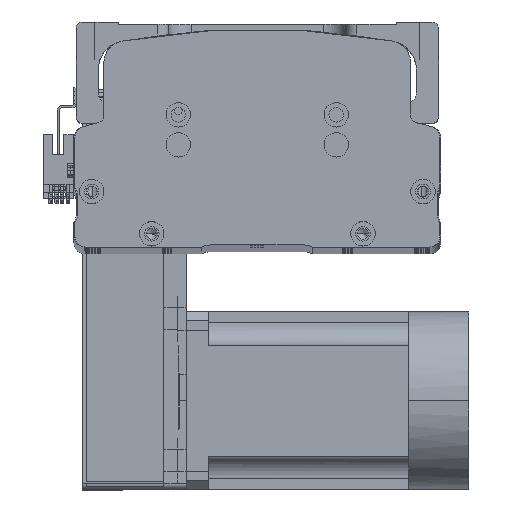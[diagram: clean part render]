
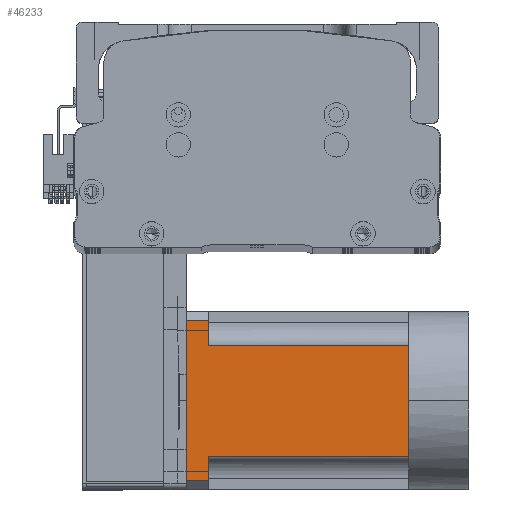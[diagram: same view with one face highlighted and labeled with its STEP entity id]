
A CAD part, top view. The second image highlights one B-rep face of the part: STEP entity #46233.
In plain terms, the highlighted planar face has unit normal (0, 0, 1) as drawn and (0, 0, -1) by its records, which use the part's own axes.
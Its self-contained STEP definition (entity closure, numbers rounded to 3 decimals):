
#2 = CARTESIAN_POINT ( 'NONE',  ( -25., -27., -40. ) ) ;
#746 = VERTEX_POINT ( 'NONE', #40291 ) ;
#1991 = DIRECTION ( 'NONE',  ( -1., 0., 0. ) ) ;
#2930 = EDGE_CURVE ( 'NONE', #25637, #43648, #60499, .T. ) ;
#5889 = CARTESIAN_POINT ( 'NONE',  ( 25., 90., -40. ) ) ;
#6438 = VERTEX_POINT ( 'NONE', #66625 ) ;
#7600 = LINE ( 'NONE', #39077, #21725 ) ;
#7798 = CARTESIAN_POINT ( 'NONE',  ( 36., 90., -40. ) ) ;
#7837 = LINE ( 'NONE', #8968, #62602 ) ;
#8527 = FACE_OUTER_BOUND ( 'NONE', #51766, .T. ) ;
#8720 = ORIENTED_EDGE ( 'NONE', *, *, #51350, .T. ) ;
#8968 = CARTESIAN_POINT ( 'NONE',  ( -40., 90., -40. ) ) ;
#10011 = CARTESIAN_POINT ( 'NONE',  ( -40., -27., -40. ) ) ;
#15196 = EDGE_CURVE ( 'NONE', #59445, #746, #39313, .T. ) ;
#21725 = VECTOR ( 'NONE', #1991, 1000. ) ;
#22451 = VECTOR ( 'NONE', #32044, 1000. ) ;
#22754 = CARTESIAN_POINT ( 'NONE',  ( 36., 100., -40. ) ) ;
#23490 = ORIENTED_EDGE ( 'NONE', *, *, #15196, .T. ) ;
#23684 = LINE ( 'NONE', #53949, #50194 ) ;
#23936 = VECTOR ( 'NONE', #26420, 1000. ) ;
#24120 = LINE ( 'NONE', #26689, #22451 ) ;
#25083 = ORIENTED_EDGE ( 'NONE', *, *, #42890, .T. ) ;
#25194 = VECTOR ( 'NONE', #26944, 1000. ) ;
#25637 = VERTEX_POINT ( 'NONE', #22754 ) ;
#25996 = DIRECTION ( 'NONE',  ( -1., 0., 0. ) ) ;
#26420 = DIRECTION ( 'NONE',  ( 0., 1., 0. ) ) ;
#26689 = CARTESIAN_POINT ( 'NONE',  ( 25., -27., -40. ) ) ;
#26944 = DIRECTION ( 'NONE',  ( -1., 0., 0. ) ) ;
#29172 = VERTEX_POINT ( 'NONE', #40160 ) ;
#29736 = ORIENTED_EDGE ( 'NONE', *, *, #40803, .T. ) ;
#31755 = CARTESIAN_POINT ( 'NONE',  ( -36., -27., -40. ) ) ;
#32044 = DIRECTION ( 'NONE',  ( 0., -1., 0. ) ) ;
#32295 = VECTOR ( 'NONE', #36668, 1000. ) ;
#36151 = AXIS2_PLACEMENT_3D ( 'NONE', #10011, #57767, #25996 ) ;
#36432 = EDGE_CURVE ( 'NONE', #50665, #57155, #7837, .T. ) ;
#36668 = DIRECTION ( 'NONE',  ( 0., -1., 0. ) ) ;
#39077 = CARTESIAN_POINT ( 'NONE',  ( -40., 90., -40. ) ) ;
#39313 = LINE ( 'NONE', #42751, #25194 ) ;
#39625 = VECTOR ( 'NONE', #59824, 1000. ) ;
#40160 = CARTESIAN_POINT ( 'NONE',  ( -36., 100., -40. ) ) ;
#40291 = CARTESIAN_POINT ( 'NONE',  ( -25., 0., -40. ) ) ;
#40803 = EDGE_CURVE ( 'NONE', #6438, #59445, #57028, .T. ) ;
#41821 = CARTESIAN_POINT ( 'NONE',  ( -25., 90., -40. ) ) ;
#42751 = CARTESIAN_POINT ( 'NONE',  ( -40., 0., -40. ) ) ;
#42890 = EDGE_CURVE ( 'NONE', #60411, #6438, #24120, .T. ) ;
#43648 = VERTEX_POINT ( 'NONE', #7798 ) ;
#45332 = EDGE_CURVE ( 'NONE', #25637, #29172, #23684, .T. ) ;
#46233 = ADVANCED_FACE ( 'NONE', ( #8527 ), #52429, .T. ) ;
#48838 = DIRECTION ( 'NONE',  ( -1., 0., 0. ) ) ;
#49222 = CARTESIAN_POINT ( 'NONE',  ( -36., 90., -40. ) ) ;
#49446 = ORIENTED_EDGE ( 'NONE', *, *, #2930, .T. ) ;
#49737 = EDGE_CURVE ( 'NONE', #43648, #60411, #7600, .T. ) ;
#50006 = ORIENTED_EDGE ( 'NONE', *, *, #49737, .T. ) ;
#50194 = VECTOR ( 'NONE', #48838, 1000. ) ;
#50461 = LINE ( 'NONE', #31755, #23936 ) ;
#50665 = VERTEX_POINT ( 'NONE', #41821 ) ;
#51342 = EDGE_CURVE ( 'NONE', #57155, #29172, #50461, .T. ) ;
#51350 = EDGE_CURVE ( 'NONE', #746, #50665, #64592, .T. ) ;
#51766 = EDGE_LOOP ( 'NONE', ( #64054, #49446, #50006, #25083, #29736, #23490, #8720, #65095, #54137 ) ) ;
#52427 = CARTESIAN_POINT ( 'NONE',  ( 36., -27., -40. ) ) ;
#52429 = PLANE ( 'NONE',  #36151 ) ;
#53087 = DIRECTION ( 'NONE',  ( 0., 1., 0. ) ) ;
#53949 = CARTESIAN_POINT ( 'NONE',  ( -40., 100., -40. ) ) ;
#54137 = ORIENTED_EDGE ( 'NONE', *, *, #51342, .T. ) ;
#56956 = DIRECTION ( 'NONE',  ( -1., 0., 0. ) ) ;
#57028 = LINE ( 'NONE', #65391, #39625 ) ;
#57155 = VERTEX_POINT ( 'NONE', #49222 ) ;
#57767 = DIRECTION ( 'NONE',  ( 0., 0., -1. ) ) ;
#59445 = VERTEX_POINT ( 'NONE', #63982 ) ;
#59824 = DIRECTION ( 'NONE',  ( -1., 0., 0. ) ) ;
#60411 = VERTEX_POINT ( 'NONE', #5889 ) ;
#60499 = LINE ( 'NONE', #52427, #32295 ) ;
#62602 = VECTOR ( 'NONE', #56956, 1000. ) ;
#62910 = VECTOR ( 'NONE', #53087, 1000. ) ;
#63982 = CARTESIAN_POINT ( 'NONE',  ( 0., 0., -40. ) ) ;
#64054 = ORIENTED_EDGE ( 'NONE', *, *, #45332, .F. ) ;
#64592 = LINE ( 'NONE', #2, #62910 ) ;
#65095 = ORIENTED_EDGE ( 'NONE', *, *, #36432, .T. ) ;
#65391 = CARTESIAN_POINT ( 'NONE',  ( -40., 0., -40. ) ) ;
#66625 = CARTESIAN_POINT ( 'NONE',  ( 25., 0., -40. ) ) ;
